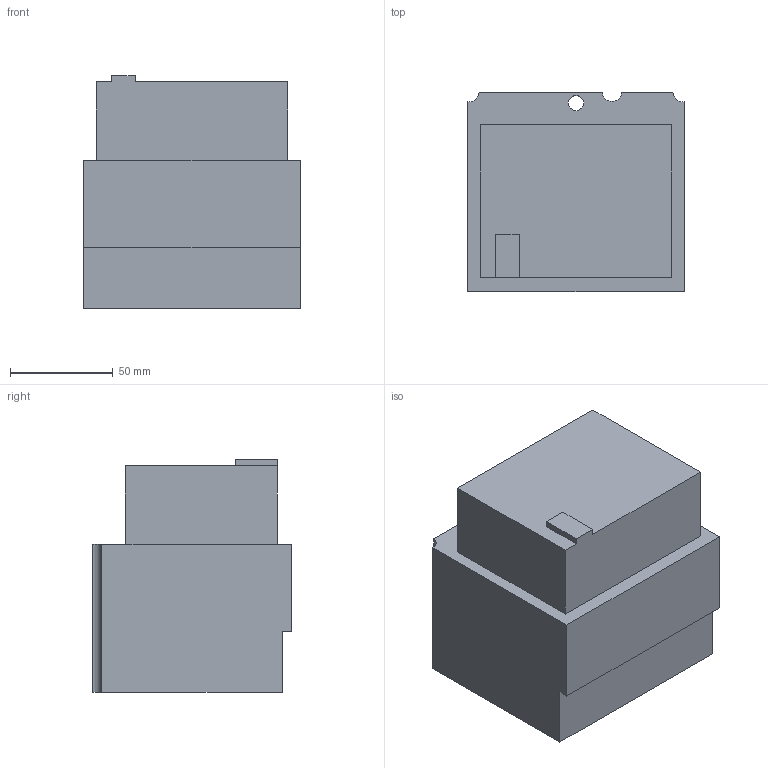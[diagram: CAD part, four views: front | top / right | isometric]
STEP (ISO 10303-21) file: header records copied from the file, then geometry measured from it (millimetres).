
FILE_DESCRIPTION (( 'STEP AP214' ), '1' );
FILE_NAME ('橡桠钿 溻桡囹咫 OptiMat D100, D160, D250-230AC.STEP', '2023-04-26T12:54:05', ( '' ), ( '' ), 'SwSTEP 2.0', 'SolidWorks 2018', '' );
FILE_SCHEMA (( 'AUTOMOTIVE_DESIGN' ));
Length unit declared in the file: millimetre
Products named in the file (1): 橡桠钿 溻桡囹咫 OptiMat D100, D160, D250-230AC
Bounding box: 105 x 97 x 113 mm (x, y, z)
Volume: 972424.6 mm3; surface area: 63566.8 mm2
Topology: 1 solids, 1 shells, 23 faces, 60 edges, 40 vertices
Faces by surface type: plane 18, cylinder 5
Entity records: 995 total; most frequent: CARTESIAN_POINT 124, ORIENTED_EDGE 120, DIRECTION 118, EDGE_CURVE 60, VECTOR 50, LINE 50, VERTEX_POINT 40, AXIS2_PLACEMENT_3D 34
